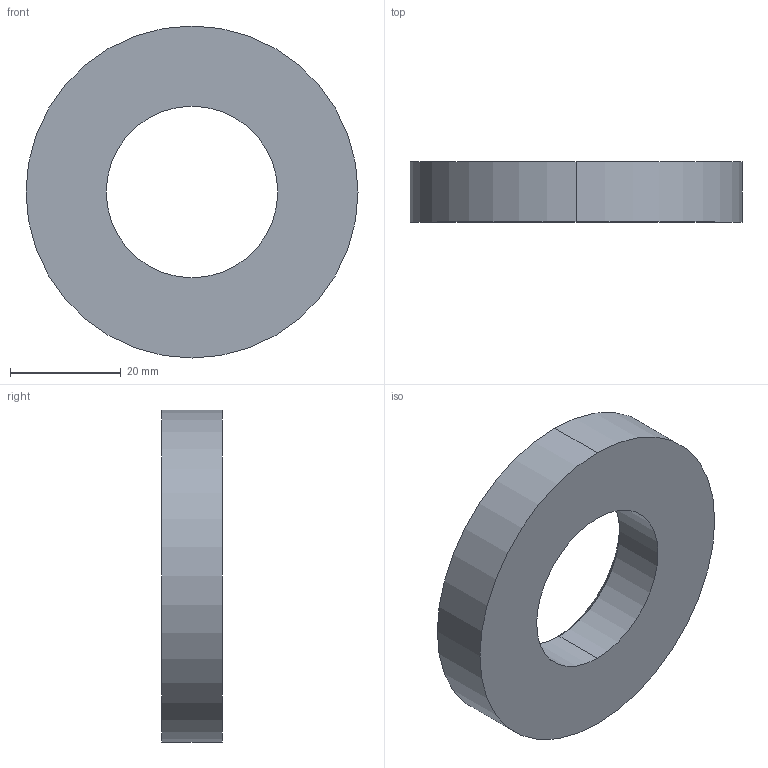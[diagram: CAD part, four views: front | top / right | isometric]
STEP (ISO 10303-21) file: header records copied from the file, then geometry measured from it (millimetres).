
FILE_DESCRIPTION (( 'STEP AP214' ), '1' );
FILE_NAME ('SM71-M30 U-Scheibe STEP.STEP', '2021-03-23T13:13:36', ( '' ), ( '' ), 'SwSTEP 2.0', 'SolidWorks 2019', '' );
FILE_SCHEMA (( 'AUTOMOTIVE_DESIGN' ));
Length unit declared in the file: millimetre
Products named in the file (2): SM71-M30 U-Scheibe STEP
Bounding box: 60 x 10.9 x 60 mm (x, y, z)
Volume: 22531.7 mm3; surface area: 7200.3 mm2
Topology: 1 solids, 1 shells, 8 faces, 16 edges, 10 vertices
Faces by surface type: cylinder 4, cone 2, plane 2
Entity records: 267 total; most frequent: DIRECTION 46, CARTESIAN_POINT 36, ORIENTED_EDGE 32, AXIS2_PLACEMENT_3D 20, EDGE_CURVE 16, CIRCLE 10, EDGE_LOOP 10, VERTEX_POINT 10
